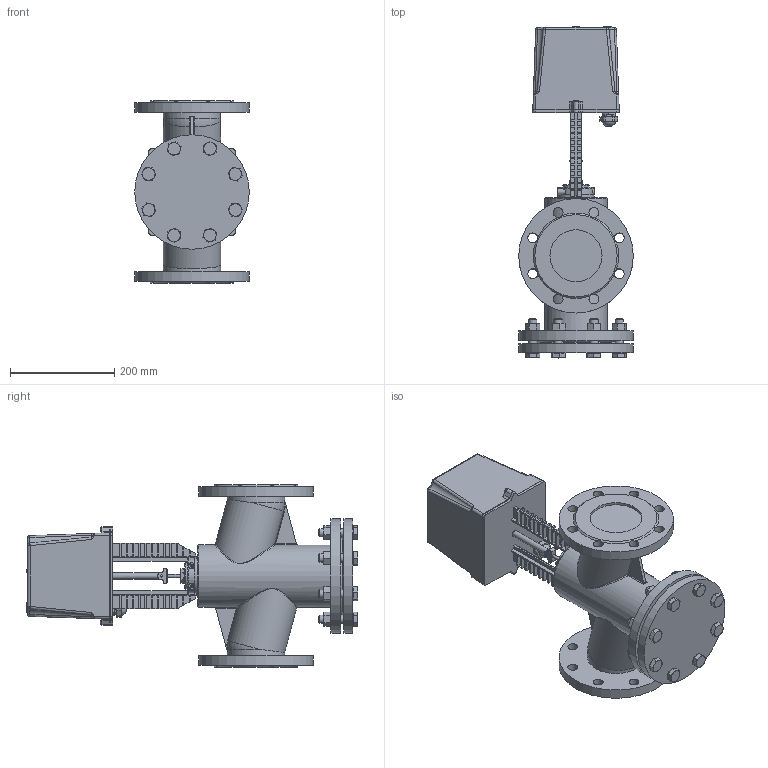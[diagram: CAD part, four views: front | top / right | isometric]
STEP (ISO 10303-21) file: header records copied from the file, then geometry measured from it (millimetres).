
FILE_DESCRIPTION(('STEP AP242'), '1');
FILE_NAME('VSR1-13V-PED-F Êëàïàí çàïîðíî-ðåãóëèðóþùèé DN.ru Äó100 Ðó16', '', ('UNSPECIFIED'), ('UNSPECIFIED'), 'C3D Converter', 'C3D Toolkit', '');
FILE_SCHEMA(('AP242_MANAGED_MODEL_BASED_3D_ENGINEERING_MIM_LF { 1 0 10303 442 1 1 4 }'));
Length unit declared in the file: millimetre
Products named in the file (1): VSR1-13V-PED-F
Bounding box: 220 x 638 x 350 mm (x, y, z)
Volume: 12245703.6 mm3; surface area: 794605.9 mm2
Topology: 1 solids, 1 shells, 1466 faces, 3871 edges, 2423 vertices
Faces by surface type: plane 783, cylinder 263, extrusion 156, cone 104, bspline 82, torus 48, sphere 30
Full cylindrical faces by diameter (mm): 4 x2, 6 x4, 7 x2, 11.5 x3, 12 x2, 13.835 x8, 16 x9, 18 x8, 19 x24, 24 x8, 25 x1, 50 x1, 70 x1, 100 x2, 110 x2, 120 x1, 220 x4
Entity records: 69688 total; most frequent: CARTESIAN_POINT 27153, ORIENTED_EDGE 7330, DIRECTION 6281, EDGE_CURVE 3665, VERTEX_POINT 2414, VECTOR 2227, LINE 2071, AXIS2_PLACEMENT_3D 2027
